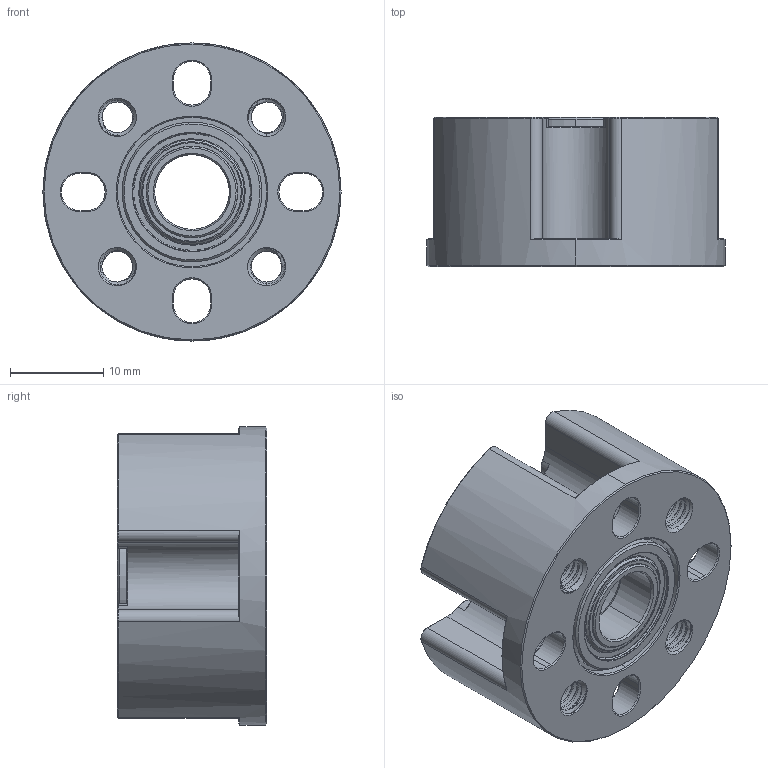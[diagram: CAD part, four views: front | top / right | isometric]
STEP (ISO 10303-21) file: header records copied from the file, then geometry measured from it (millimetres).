
FILE_DESCRIPTION (( 'STEP AP203' ), '1' );
FILE_NAME ('1614-0016-0008.STEP', '2022-05-19T18:30:18', ( '' ), ( '' ), 'SwSTEP 2.0', 'SolidWorks 2016', '' );
FILE_SCHEMA (( 'CONFIG_CONTROL_DESIGN' ));
Length unit declared in the file: millimetre
Products named in the file (3): 1614-0016-0000; 1614-0016-0008; 1611-0514-0008
Assembly tree (3 placements, depth 2):
  1614-0016-0008
    1614-0016-0000
    1611-0514-0008  x2
Bounding box: 31.95 x 16 x 31.95 mm (x, y, z)
Volume: 7592.4 mm3; surface area: 6785.3 mm2
Topology: 7 solids, 7 shells, 738 faces, 1934 edges, 1235 vertices
Faces by surface type: cylinder 461, cone 142, plane 87, torus 40, bspline 8
Entity records: 33122 total; most frequent: CARTESIAN_POINT 18401, ORIENTED_EDGE 3532, DIRECTION 2625, EDGE_CURVE 1766, VERTEX_POINT 1135, AXIS2_PLACEMENT_3D 991, EDGE_LOOP 685, FACE_OUTER_BOUND 652
